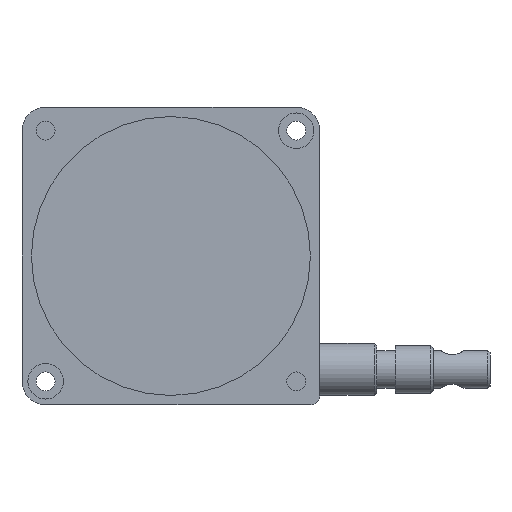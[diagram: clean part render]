
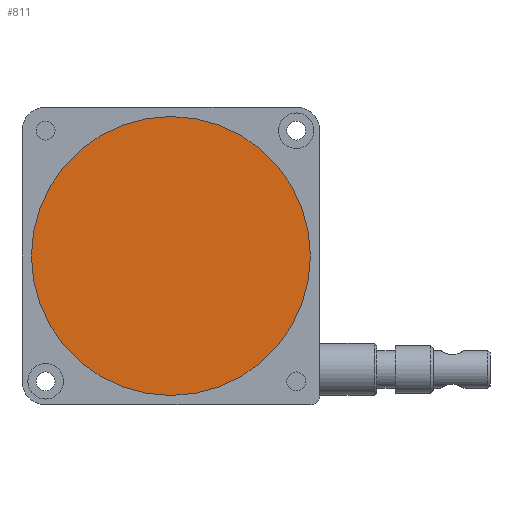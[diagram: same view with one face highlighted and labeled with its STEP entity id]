
A CAD part, front view. The second image highlights one B-rep face of the part: STEP entity #811.
In plain terms, the highlighted planar face has unit normal (0, -1, 0).
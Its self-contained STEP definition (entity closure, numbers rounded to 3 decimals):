
#811=ADVANCED_FACE('',(#1084),#1023,.F.);
#1023=PLANE('',#3569);
#1084=FACE_OUTER_BOUND('',#1266,.T.);
#1266=EDGE_LOOP('',(#1530,#1531));
#1530=ORIENTED_EDGE('',*,*,#2846,.T.);
#1531=ORIENTED_EDGE('',*,*,#2847,.T.);
#2520=VERTEX_POINT('',#5014);
#2521=VERTEX_POINT('',#5015);
#2846=EDGE_CURVE('',#2520,#2521,#3341,.T.);
#2847=EDGE_CURVE('',#2521,#2520,#3342,.T.);
#3341=CIRCLE('',#3567,29.5);
#3342=CIRCLE('',#3568,29.5);
#3567=AXIS2_PLACEMENT_3D('',#5013,#3987,#3988);
#3568=AXIS2_PLACEMENT_3D('',#5016,#3989,#3990);
#3569=AXIS2_PLACEMENT_3D('',#5017,#3991,#3992);
#3987=DIRECTION('',(0.,-1.,0.));
#3988=DIRECTION('',(1.,0.,0.));
#3989=DIRECTION('',(0.,-1.,0.));
#3990=DIRECTION('',(-1.,0.,0.));
#3991=DIRECTION('',(0.,1.,0.));
#3992=DIRECTION('',(-1.,0.,0.));
#5013=CARTESIAN_POINT('',(-170.54,102.137,62.111));
#5014=CARTESIAN_POINT('',(-141.04,102.137,62.111));
#5015=CARTESIAN_POINT('',(-200.04,102.137,62.111));
#5016=CARTESIAN_POINT('',(-170.54,102.137,62.111));
#5017=CARTESIAN_POINT('',(-170.54,102.137,62.111));
